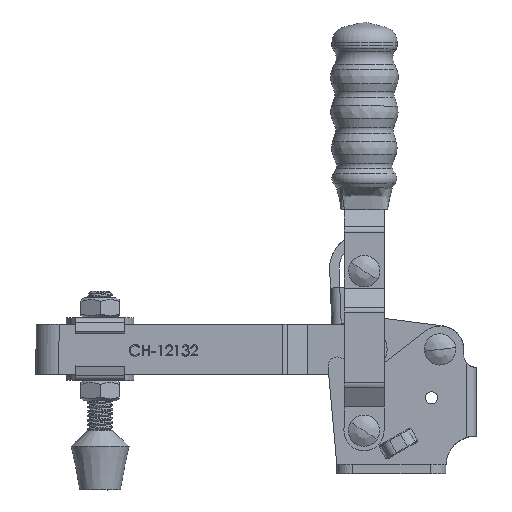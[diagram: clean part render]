
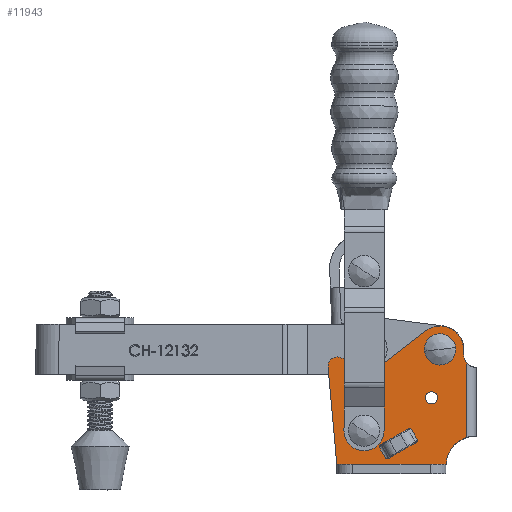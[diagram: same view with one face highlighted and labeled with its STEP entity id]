
A CAD part, top view. The second image highlights one B-rep face of the part: STEP entity #11943.
In plain terms, the highlighted planar face has unit normal (0, 0, 1).
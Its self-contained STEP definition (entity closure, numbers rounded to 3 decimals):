
#328=FACE_BOUND('',#4077,.T.);
#329=FACE_BOUND('',#4078,.T.);
#330=FACE_BOUND('',#4079,.T.);
#331=FACE_BOUND('',#4080,.T.);
#423=PLANE('',#12980);
#710=B_SPLINE_CURVE_WITH_KNOTS('',3,(#18160,#18161,#18162,#18163),
 .UNSPECIFIED.,.F.,.F.,(4,4),(-0.085,0.),.UNSPECIFIED.);
#711=B_SPLINE_CURVE_WITH_KNOTS('',3,(#18167,#18168,#18169,#18170),
 .UNSPECIFIED.,.F.,.F.,(4,4),(-0.278,-0.193),
 .UNSPECIFIED.);
#712=B_SPLINE_CURVE_WITH_KNOTS('',3,(#18174,#18175,#18176,#18177),
 .UNSPECIFIED.,.F.,.F.,(4,4),(-0.085,0.),.UNSPECIFIED.);
#713=B_SPLINE_CURVE_WITH_KNOTS('',3,(#18180,#18181,#18182,#18183),
 .UNSPECIFIED.,.F.,.F.,(4,4),(-0.278,-0.193),
 .UNSPECIFIED.);
#1412=LINE('',#18137,#2404);
#1413=LINE('',#18139,#2405);
#1414=LINE('',#18143,#2406);
#1415=LINE('',#18147,#2407);
#1416=LINE('',#18151,#2408);
#1417=LINE('',#18154,#2409);
#1418=LINE('',#18155,#2410);
#1419=LINE('',#18158,#2411);
#1420=LINE('',#18165,#2412);
#1421=LINE('',#18172,#2413);
#1422=LINE('',#18179,#2414);
#2404=VECTOR('',#14198,1000.);
#2405=VECTOR('',#14199,1000.);
#2406=VECTOR('',#14202,1000.);
#2407=VECTOR('',#14205,1000.);
#2408=VECTOR('',#14208,1000.);
#2409=VECTOR('',#14211,1000.);
#2410=VECTOR('',#14212,1000.);
#2411=VECTOR('',#14213,1000.);
#2412=VECTOR('',#14214,1000.);
#2413=VECTOR('',#14215,1000.);
#2414=VECTOR('',#14216,1000.);
#3401=FACE_OUTER_BOUND('',#4076,.T.);
#4076=EDGE_LOOP('',(#8657,#8658,#8659,#8660,#8661,#8662,#8663,#8664,#8665,
#8666,#8667,#8668));
#4077=EDGE_LOOP('',(#8669,#8670));
#4078=EDGE_LOOP('',(#8671,#8672));
#4079=EDGE_LOOP('',(#8673,#8674));
#4080=EDGE_LOOP('',(#8675,#8676,#8677,#8678,#8679,#8680,#8681,#8682));
#4834=CIRCLE('',#12955,3.);
#4836=CIRCLE('',#12958,1.95);
#4839=CIRCLE('',#12961,1.95);
#4840=CIRCLE('',#12963,3.2);
#4843=CIRCLE('',#12966,3.2);
#4844=CIRCLE('',#12968,3.2);
#4847=CIRCLE('',#12971,3.2);
#4854=CIRCLE('',#12981,9.5);
#4855=CIRCLE('',#12982,4.);
#4856=CIRCLE('',#12983,7.5);
#4857=CIRCLE('',#12984,7.);
#5245=VERTEX_POINT('',#18057);
#5246=VERTEX_POINT('',#18058);
#5249=VERTEX_POINT('',#18066);
#5250=VERTEX_POINT('',#18067);
#5253=VERTEX_POINT('',#18076);
#5254=VERTEX_POINT('',#18077);
#5257=VERTEX_POINT('',#18086);
#5258=VERTEX_POINT('',#18087);
#5279=VERTEX_POINT('',#18135);
#5280=VERTEX_POINT('',#18136);
#5281=VERTEX_POINT('',#18138);
#5282=VERTEX_POINT('',#18140);
#5283=VERTEX_POINT('',#18142);
#5284=VERTEX_POINT('',#18144);
#5285=VERTEX_POINT('',#18146);
#5286=VERTEX_POINT('',#18148);
#5287=VERTEX_POINT('',#18150);
#5288=VERTEX_POINT('',#18152);
#5289=VERTEX_POINT('',#18156);
#5290=VERTEX_POINT('',#18157);
#5291=VERTEX_POINT('',#18159);
#5292=VERTEX_POINT('',#18164);
#5293=VERTEX_POINT('',#18166);
#5294=VERTEX_POINT('',#18171);
#5295=VERTEX_POINT('',#18173);
#5296=VERTEX_POINT('',#18178);
#6557=EDGE_CURVE('',#5245,#5246,#4834,.T.);
#6561=EDGE_CURVE('',#5249,#5250,#4836,.T.);
#6565=EDGE_CURVE('',#5250,#5249,#4839,.T.);
#6566=EDGE_CURVE('',#5253,#5254,#4840,.T.);
#6570=EDGE_CURVE('',#5254,#5253,#4843,.T.);
#6571=EDGE_CURVE('',#5257,#5258,#4844,.T.);
#6575=EDGE_CURVE('',#5258,#5257,#4847,.T.);
#6595=EDGE_CURVE('',#5279,#5280,#1412,.T.);
#6596=EDGE_CURVE('',#5281,#5279,#1413,.T.);
#6597=EDGE_CURVE('',#5281,#5282,#4854,.T.);
#6598=EDGE_CURVE('',#5282,#5283,#1414,.T.);
#6599=EDGE_CURVE('',#5283,#5284,#4855,.T.);
#6600=EDGE_CURVE('',#5284,#5285,#1415,.T.);
#6601=EDGE_CURVE('',#5285,#5286,#4856,.T.);
#6602=EDGE_CURVE('',#5286,#5287,#1416,.T.);
#6603=EDGE_CURVE('',#5287,#5288,#4857,.T.);
#6604=EDGE_CURVE('',#5288,#5245,#1417,.T.);
#6605=EDGE_CURVE('',#5246,#5280,#1418,.T.);
#6606=EDGE_CURVE('',#5289,#5290,#1419,.T.);
#6607=EDGE_CURVE('',#5289,#5291,#710,.T.);
#6608=EDGE_CURVE('',#5291,#5292,#1420,.T.);
#6609=EDGE_CURVE('',#5292,#5293,#711,.T.);
#6610=EDGE_CURVE('',#5294,#5293,#1421,.T.);
#6611=EDGE_CURVE('',#5294,#5295,#712,.T.);
#6612=EDGE_CURVE('',#5295,#5296,#1422,.T.);
#6613=EDGE_CURVE('',#5296,#5290,#713,.T.);
#8657=ORIENTED_EDGE('',*,*,#6595,.F.);
#8658=ORIENTED_EDGE('',*,*,#6596,.F.);
#8659=ORIENTED_EDGE('',*,*,#6597,.T.);
#8660=ORIENTED_EDGE('',*,*,#6598,.T.);
#8661=ORIENTED_EDGE('',*,*,#6599,.T.);
#8662=ORIENTED_EDGE('',*,*,#6600,.T.);
#8663=ORIENTED_EDGE('',*,*,#6601,.T.);
#8664=ORIENTED_EDGE('',*,*,#6602,.T.);
#8665=ORIENTED_EDGE('',*,*,#6603,.T.);
#8666=ORIENTED_EDGE('',*,*,#6604,.T.);
#8667=ORIENTED_EDGE('',*,*,#6557,.T.);
#8668=ORIENTED_EDGE('',*,*,#6605,.T.);
#8669=ORIENTED_EDGE('',*,*,#6566,.F.);
#8670=ORIENTED_EDGE('',*,*,#6570,.F.);
#8671=ORIENTED_EDGE('',*,*,#6571,.F.);
#8672=ORIENTED_EDGE('',*,*,#6575,.F.);
#8673=ORIENTED_EDGE('',*,*,#6561,.F.);
#8674=ORIENTED_EDGE('',*,*,#6565,.F.);
#8675=ORIENTED_EDGE('',*,*,#6606,.F.);
#8676=ORIENTED_EDGE('',*,*,#6607,.T.);
#8677=ORIENTED_EDGE('',*,*,#6608,.T.);
#8678=ORIENTED_EDGE('',*,*,#6609,.T.);
#8679=ORIENTED_EDGE('',*,*,#6610,.F.);
#8680=ORIENTED_EDGE('',*,*,#6611,.T.);
#8681=ORIENTED_EDGE('',*,*,#6612,.T.);
#8682=ORIENTED_EDGE('',*,*,#6613,.T.);
#11943=ADVANCED_FACE('',(#3401,#328,#329,#330,#331),#423,.T.);
#12955=AXIS2_PLACEMENT_3D('',#18059,#14128,#14129);
#12958=AXIS2_PLACEMENT_3D('',#18068,#14136,#14137);
#12961=AXIS2_PLACEMENT_3D('',#18074,#14143,#14144);
#12963=AXIS2_PLACEMENT_3D('',#18078,#14147,#14148);
#12966=AXIS2_PLACEMENT_3D('',#18084,#14154,#14155);
#12968=AXIS2_PLACEMENT_3D('',#18088,#14158,#14159);
#12971=AXIS2_PLACEMENT_3D('',#18094,#14165,#14166);
#12980=AXIS2_PLACEMENT_3D('',#18134,#14196,#14197);
#12981=AXIS2_PLACEMENT_3D('',#18141,#14200,#14201);
#12982=AXIS2_PLACEMENT_3D('',#18145,#14203,#14204);
#12983=AXIS2_PLACEMENT_3D('',#18149,#14206,#14207);
#12984=AXIS2_PLACEMENT_3D('',#18153,#14209,#14210);
#14128=DIRECTION('center_axis',(0.,0.,1.));
#14129=DIRECTION('ref_axis',(1.,0.,0.));
#14136=DIRECTION('center_axis',(0.,0.,1.));
#14137=DIRECTION('ref_axis',(1.,0.,0.));
#14143=DIRECTION('center_axis',(0.,0.,1.));
#14144=DIRECTION('ref_axis',(1.,0.,0.));
#14147=DIRECTION('center_axis',(0.,0.,1.));
#14148=DIRECTION('ref_axis',(1.,0.,0.));
#14154=DIRECTION('center_axis',(0.,0.,1.));
#14155=DIRECTION('ref_axis',(1.,0.,0.));
#14158=DIRECTION('center_axis',(0.,0.,1.));
#14159=DIRECTION('ref_axis',(1.,0.,0.));
#14165=DIRECTION('center_axis',(0.,0.,1.));
#14166=DIRECTION('ref_axis',(1.,0.,0.));
#14196=DIRECTION('center_axis',(0.,0.,1.));
#14197=DIRECTION('ref_axis',(1.,0.,0.));
#14198=DIRECTION('',(-1.,0.,0.));
#14199=DIRECTION('',(0.,1.,0.));
#14200=DIRECTION('center_axis',(0.,0.,-1.));
#14201=DIRECTION('ref_axis',(1.,0.,0.));
#14202=DIRECTION('',(0.,1.,0.));
#14203=DIRECTION('center_axis',(0.,0.,-1.));
#14204=DIRECTION('ref_axis',(1.,0.,0.));
#14205=DIRECTION('',(0.,1.,0.));
#14206=DIRECTION('center_axis',(0.,0.,1.));
#14207=DIRECTION('ref_axis',(1.,0.,0.));
#14208=DIRECTION('',(-0.792,-0.611,0.));
#14209=DIRECTION('center_axis',(0.,0.,-1.));
#14210=DIRECTION('ref_axis',(1.,0.,0.));
#14211=DIRECTION('',(-0.677,0.736,0.));
#14212=DIRECTION('',(0.09,-0.996,0.));
#14213=DIRECTION('',(0.866,0.5,0.));
#14214=DIRECTION('',(-0.5,0.866,0.));
#14215=DIRECTION('',(-0.866,-0.5,0.));
#14216=DIRECTION('',(0.5,-0.866,0.));
#18057=CARTESIAN_POINT('',(-32.494,36.33,12.));
#18058=CARTESIAN_POINT('',(-37.691,34.031,12.));
#18059=CARTESIAN_POINT('Origin',(-34.703,34.3,12.));
#18066=CARTESIAN_POINT('',(-6.55,24.2,12.));
#18067=CARTESIAN_POINT('',(-2.65,24.2,12.));
#18068=CARTESIAN_POINT('Origin',(-4.6,24.2,12.));
#18074=CARTESIAN_POINT('Origin',(-4.6,24.2,12.));
#18076=CARTESIAN_POINT('',(-29.4,13.7,12.));
#18077=CARTESIAN_POINT('',(-23.,13.7,12.));
#18078=CARTESIAN_POINT('Origin',(-26.2,13.7,12.));
#18084=CARTESIAN_POINT('Origin',(-26.2,13.7,12.));
#18086=CARTESIAN_POINT('',(-5.1,39.7,12.));
#18087=CARTESIAN_POINT('',(1.3,39.7,12.));
#18088=CARTESIAN_POINT('Origin',(-1.9,39.7,12.));
#18094=CARTESIAN_POINT('Origin',(-1.9,39.7,12.));
#18134=CARTESIAN_POINT('Origin',(9.5,2.5,12.));
#18135=CARTESIAN_POINT('',(0.,3.,12.));
#18136=CARTESIAN_POINT('',(-34.9,3.,12.));
#18137=CARTESIAN_POINT('',(0.,3.,12.));
#18138=CARTESIAN_POINT('',(0.,2.5,12.));
#18139=CARTESIAN_POINT('',(0.,0.,12.));
#18140=CARTESIAN_POINT('',(6.6,11.547,12.));
#18141=CARTESIAN_POINT('Origin',(9.5,2.5,12.));
#18142=CARTESIAN_POINT('',(6.6,35.354,12.));
#18143=CARTESIAN_POINT('',(6.6,34.,12.));
#18144=CARTESIAN_POINT('',(5.6,38.,12.));
#18145=CARTESIAN_POINT('Origin',(9.6,38.,12.));
#18146=CARTESIAN_POINT('',(5.6,39.7,12.));
#18147=CARTESIAN_POINT('',(5.6,39.7,12.));
#18148=CARTESIAN_POINT('',(-6.481,45.639,12.));
#18149=CARTESIAN_POINT('Origin',(-1.9,39.7,12.));
#18150=CARTESIAN_POINT('',(-21.625,33.957,12.));
#18151=CARTESIAN_POINT('',(-21.625,33.957,12.));
#18152=CARTESIAN_POINT('',(-31.053,34.763,12.));
#18153=CARTESIAN_POINT('Origin',(-25.9,39.5,12.));
#18154=CARTESIAN_POINT('',(-32.494,36.33,12.));
#18155=CARTESIAN_POINT('',(-34.9,3.,12.));
#18156=CARTESIAN_POINT('',(-18.317,4.914,12.));
#18157=CARTESIAN_POINT('',(-9.583,9.956,12.));
#18158=CARTESIAN_POINT('',(-18.28,4.935,12.));
#18159=CARTESIAN_POINT('',(-19.186,4.758,12.));
#18160=CARTESIAN_POINT('Ctrl Pts',(-18.317,4.914,12.));
#18161=CARTESIAN_POINT('Ctrl Pts',(-18.562,4.772,12.));
#18162=CARTESIAN_POINT('Ctrl Pts',(-18.903,4.765,12.));
#18163=CARTESIAN_POINT('Ctrl Pts',(-19.186,4.758,12.));
#18164=CARTESIAN_POINT('',(-21.386,8.569,12.));
#18165=CARTESIAN_POINT('',(-21.536,8.829,12.));
#18166=CARTESIAN_POINT('',(-20.817,9.244,12.));
#18167=CARTESIAN_POINT('Ctrl Pts',(-21.386,8.569,12.));
#18168=CARTESIAN_POINT('Ctrl Pts',(-21.239,8.811,12.));
#18169=CARTESIAN_POINT('Ctrl Pts',(-21.062,9.102,12.));
#18170=CARTESIAN_POINT('Ctrl Pts',(-20.817,9.244,12.));
#18171=CARTESIAN_POINT('',(-12.083,14.286,12.));
#18172=CARTESIAN_POINT('',(-20.78,9.265,12.));
#18173=CARTESIAN_POINT('',(-11.214,14.442,12.));
#18174=CARTESIAN_POINT('Ctrl Pts',(-12.083,14.286,12.));
#18175=CARTESIAN_POINT('Ctrl Pts',(-11.838,14.428,12.));
#18176=CARTESIAN_POINT('Ctrl Pts',(-11.497,14.435,12.));
#18177=CARTESIAN_POINT('Ctrl Pts',(-11.214,14.442,12.));
#18178=CARTESIAN_POINT('',(-9.014,10.631,12.));
#18179=CARTESIAN_POINT('',(-8.864,10.371,12.));
#18180=CARTESIAN_POINT('Ctrl Pts',(-9.014,10.631,12.));
#18181=CARTESIAN_POINT('Ctrl Pts',(-9.161,10.389,12.));
#18182=CARTESIAN_POINT('Ctrl Pts',(-9.338,10.098,12.));
#18183=CARTESIAN_POINT('Ctrl Pts',(-9.583,9.956,12.));
